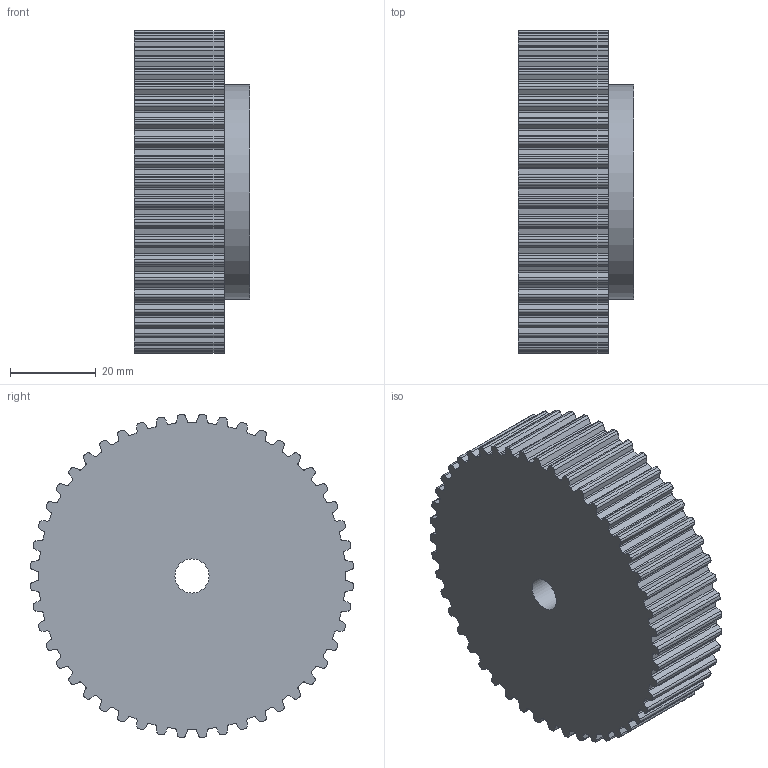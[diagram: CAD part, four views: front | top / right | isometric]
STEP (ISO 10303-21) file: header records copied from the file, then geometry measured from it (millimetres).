
FILE_DESCRIPTION( ( 'STEP AP203' ), '1' );
FILE_NAME( 'C:/Users/Stangenbergd/Documents/CAD_Step/1/16234800.stp', '2020-09-13T08:18:33', ( 'License CC BY-ND 4.0' ), ( 'CADENAS' ), ' ', 'PARTsolutions', ' ' );
FILE_SCHEMA( ( 'CONFIG_CONTROL_DESIGN' ) );
Length unit declared in the file: millimetre
Products named in the file (1): _16234800
Bounding box: 27 x 75.43 x 75.43 mm (x, y, z)
Volume: 99377.1 mm3; surface area: 17285.2 mm2
Topology: 1 solids, 1 shells, 389 faces, 1158 edges, 772 vertices
Faces by surface type: cylinder 242, plane 147
Full cylindrical faces by diameter (mm): 8 x1, 50 x1
Entity records: 13294 total; most frequent: DIRECTION 2420, CARTESIAN_POINT 2318, ORIENTED_EDGE 2312, EDGE_CURVE 1156, AXIS2_PLACEMENT_3D 874, VERTEX_POINT 772, LINE 672, VECTOR 672
